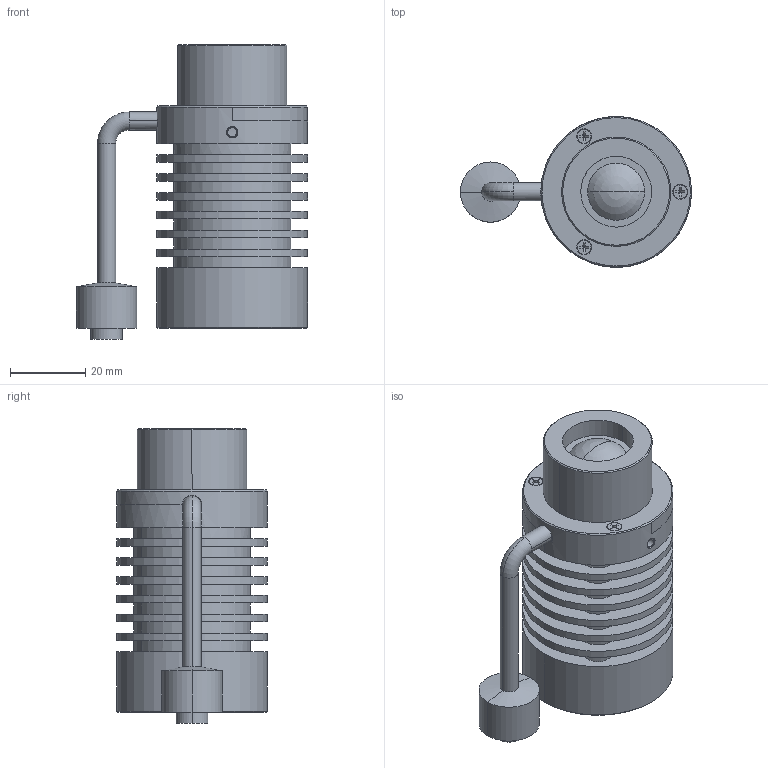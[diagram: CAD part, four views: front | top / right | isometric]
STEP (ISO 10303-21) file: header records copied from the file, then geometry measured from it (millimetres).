
FILE_DESCRIPTION((''),'2;1');
FILE_NAME('MV-LDFM-H1','2024-03-29T16:44:32',('lizhoupeng'),(''),'CREO PARAMETRIC BY PTC INC, 2020044','CREO PARAMETRIC BY PTC INC, 2020044','');
FILE_SCHEMA(('AUTOMOTIVE_DESIGN { 1 0 10303 214 1 1 1 1 }'));
Length unit declared in the file: millimetre
Products named in the file (1): MV-LDFM-H1
Bounding box: 61.34 x 40 x 78.3 mm (x, y, z)
Volume: 74949.2 mm3; surface area: 24219.6 mm2
Topology: 1 solids, 33 shells, 704 faces, 1748 edges, 1077 vertices
Faces by surface type: plane 340, cylinder 277, cone 67, torus 16, sphere 2, bspline 2
Entity records: 22286 total; most frequent: CARTESIAN_POINT 5266, DIRECTION 3660, ORIENTED_EDGE 3360, EDGE_CURVE 1732, AXIS2_PLACEMENT_3D 1343, VERTEX_POINT 1077, VECTOR 974, LINE 974
